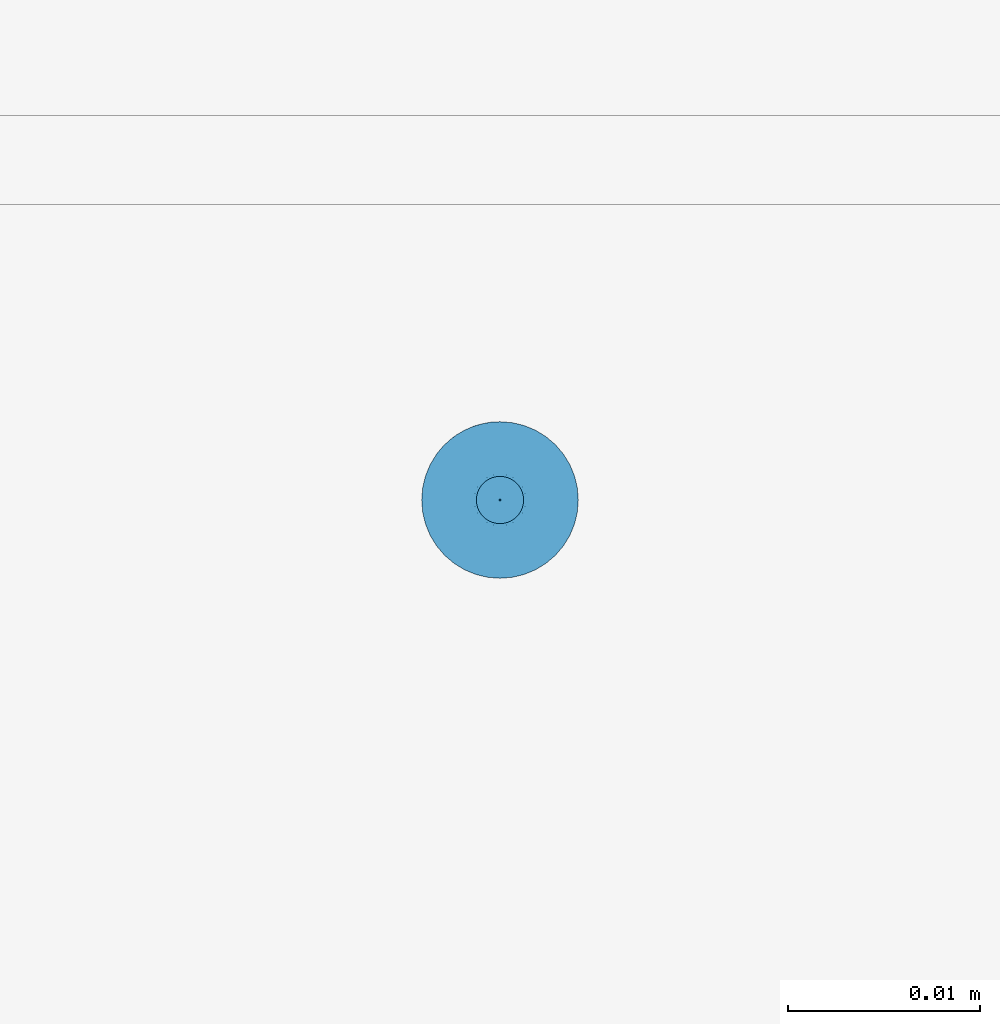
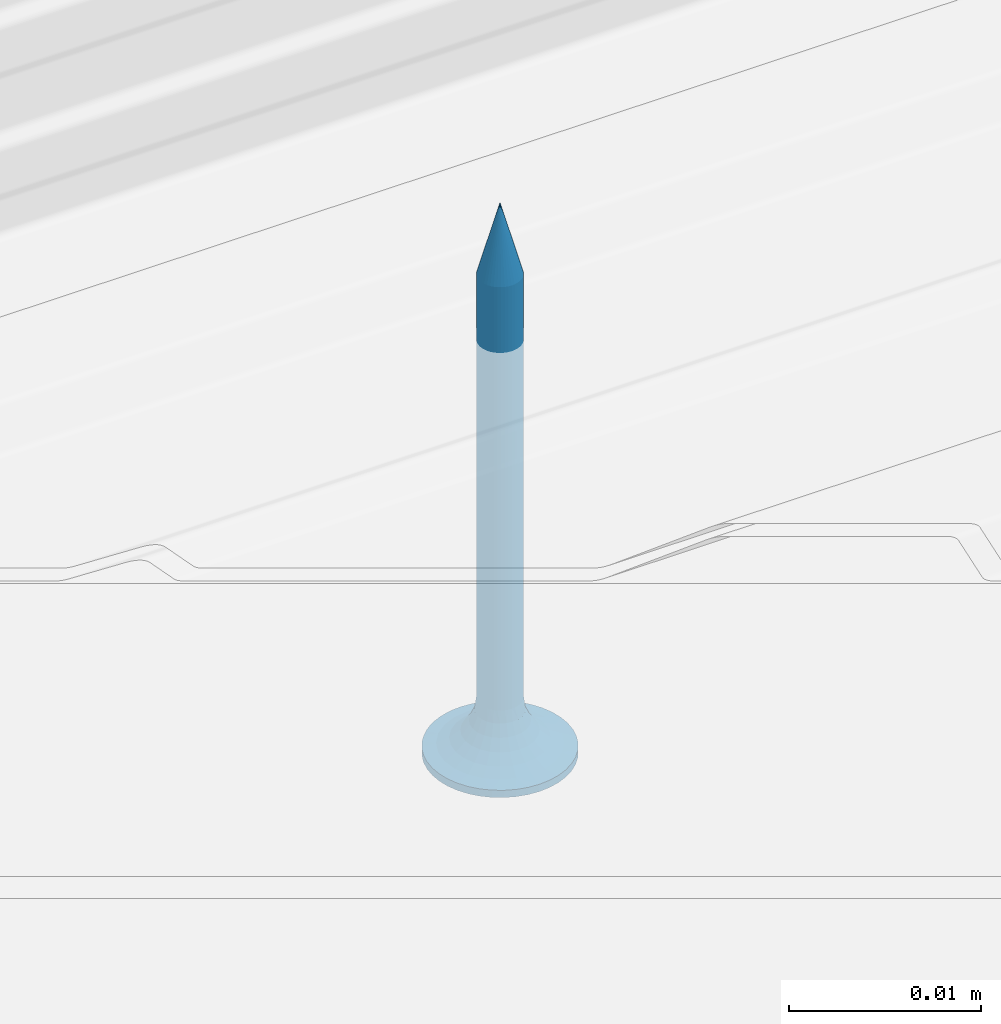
# One storey, part 65 of 73: 1 slab.
"""IFC2X3 building model written with IfcOpenShell, lengths in millimetres."""

from ifc_helpers import new_model, entity, si_unit, converted_unit, direction, frame, origin, origin_with_axes, place, context, project, spatial, faceted_brep, element, save


model = new_model("IFC2X3")

# Units and contexts
model_context = context("Model", 3, precision=1e-05, world=origin(), true_north=direction((0.0, 1.0, 0.0)))
ifc_project = project(units=[si_unit("LENGTHUNIT", "METRE", prefix="MILLI"), si_unit("AREAUNIT", "SQUARE_METRE"), si_unit("VOLUMEUNIT", "CUBIC_METRE"), converted_unit("PLANEANGLEUNIT", "DEGREE", entity("IfcPlaneAngleMeasure", 0.01745), si_unit("PLANEANGLEUNIT", "RADIAN"), dimensions=[0, 0, 0, 0, 0, 0, 0]), si_unit("SOLIDANGLEUNIT", "STERADIAN"), si_unit("MASSUNIT", "GRAM"), si_unit("TIMEUNIT", "SECOND"), si_unit("THERMODYNAMICTEMPERATUREUNIT", "DEGREE_CELSIUS"), si_unit("LUMINOUSINTENSITYUNIT", "LUMEN")], contexts=[model_context])

# Site, building, storey
site_placement = place(None, origin_with_axes())
site = spatial("IfcSite", under=ifc_project, at=site_placement, Name="Default Site", CompositionType="ELEMENT")
building_placement = place(site_placement, origin_with_axes())
building = spatial("IfcBuilding", under=site, at=building_placement, Name="Default Building", CompositionType="ELEMENT")
storey_placement = place(building_placement, origin_with_axes())
storey = spatial("IfcBuildingStorey", under=building, at=storey_placement, Name="Default Building Storey", CompositionType="ELEMENT", Elevation=0.0)

# Slab
slab_placement = place(storey_placement, frame((2340.616074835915, 2684.732776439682, 4357.806162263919), z_axis=(0.0, -1.0, 2.220446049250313e-16), x_axis=(1.0, 1.802054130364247e-31, 8.115730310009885e-16)))
element("IfcSlab", 1, at=slab_placement, inside=storey, Name="Wkręt RIGIPS TN 35", context=model_context, shape_type="Brep", body=[
    faceted_brep([(-138.4548091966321, -3360.55807436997, 556.5233405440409), (-138.3293964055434, -3360.55807436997, 556.6701800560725), (-138.3293964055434, -3387.475459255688, 556.6701800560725), (-138.4548091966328, -3387.475459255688, 556.5233405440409), (-137.2667048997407, -3387.475459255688, 554.5845305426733), (-137.2667048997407, -3360.55807436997, 554.5845305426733), (-137.4592163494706, -3360.55807436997, 554.5693795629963), (-137.4592163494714, -3387.475459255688, 554.5693795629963), (-136.5890362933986, -3387.475459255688, 554.9298199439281), (-136.4636235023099, -3387.475459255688, 555.0766594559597), (-136.4636235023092, -3360.55807436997, 555.0766594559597), (-136.5890362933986, -3360.55807436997, 554.9298199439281), (-136.4636235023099, -3387.475459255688, 556.5233405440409), (-136.5890362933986, -3387.475459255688, 556.6701800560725), (-136.5890362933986, -3360.55807436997, 556.6701800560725), (-136.4636235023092, -3360.55807436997, 556.5233405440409), (-136.9005263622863, -3387.475459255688, 554.7035091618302), (-136.9005263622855, -3360.55807436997, 554.7035091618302), (-137.0789337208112, -3360.55807436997, 554.6296104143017), (-137.078933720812, -3387.475459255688, 554.6296104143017), (-136.7358758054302, -3360.55807436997, 554.8044071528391), (-136.7358758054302, -3387.475459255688, 554.8044071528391), (-137.6517277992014, -3360.55807436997, 554.5845305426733), (-137.6517277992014, -3387.475459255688, 554.5845305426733), (-136.7358758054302, -3387.475459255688, 556.7955928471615), (-136.7358758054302, -3360.55807436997, 556.7955928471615), (-137.83949897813, -3360.55807436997, 554.6296104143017), (-137.8394989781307, -3387.475459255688, 554.6296104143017), (-138.6746858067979, -3360.55807436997, 555.6074885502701), (-138.6898367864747, -3360.55807436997, 555.8000000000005), (-138.6898367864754, -3387.475459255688, 555.8000000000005), (-138.6746858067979, -3387.475459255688, 555.6074885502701), (-138.3293964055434, -3360.55807436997, 554.9298199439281), (-138.4548091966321, -3360.55807436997, 555.0766594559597), (-138.4548091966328, -3387.475459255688, 555.0766594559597), (-138.3293964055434, -3387.475459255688, 554.9298199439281), (-138.0179063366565, -3387.475459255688, 554.7035091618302), (-138.0179063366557, -3360.55807436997, 554.7035091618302), (-138.1825568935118, -3360.55807436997, 554.8044071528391), (-138.1825568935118, -3387.475459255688, 554.8044071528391), (-136.2888267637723, -3387.475459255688, 555.4197173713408), (-136.2437468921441, -3387.475459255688, 555.6074885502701), (-136.2437468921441, -3360.55807436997, 555.6074885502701), (-136.2888267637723, -3360.55807436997, 555.4197173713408), (-138.6296059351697, -3360.55807436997, 555.4197173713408), (-138.6296059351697, -3387.475459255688, 555.4197173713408), (-136.9005263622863, -3387.475459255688, 556.8964908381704), (-136.9005263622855, -3360.55807436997, 556.8964908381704), (-137.4592163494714, -3387.475459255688, 557.0306204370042), (-137.4592163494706, -3360.55807436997, 557.0306204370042), (-137.2667048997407, -3360.55807436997, 557.0154694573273), (-137.2667048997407, -3387.475459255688, 557.0154694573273), (-138.1825568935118, -3387.475459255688, 556.7955928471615), (-138.1825568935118, -3360.55807436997, 556.7955928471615), (-138.0179063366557, -3360.55807436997, 556.8964908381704), (-138.0179063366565, -3387.475459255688, 556.8964908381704), (-136.3627255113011, -3387.475459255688, 556.3586899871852), (-136.3627255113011, -3360.55807436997, 556.3586899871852), (-136.3627255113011, -3387.475459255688, 555.241310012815), (-136.3627255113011, -3360.55807436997, 555.241310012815), (-138.5557071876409, -3360.55807436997, 555.241310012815), (-138.5557071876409, -3387.475459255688, 555.241310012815), (-136.2285959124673, -3387.475459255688, 555.8000000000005), (-136.2285959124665, -3360.55807436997, 555.8000000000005), (-137.8394989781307, -3387.475459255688, 556.9703895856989), (-137.83949897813, -3360.55807436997, 556.9703895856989), (-137.6517277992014, -3360.55807436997, 557.0154694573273), (-137.6517277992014, -3387.475459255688, 557.0154694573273), (-137.078933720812, -3387.475459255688, 556.9703895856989), (-137.0789337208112, -3360.55807436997, 556.9703895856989), (-136.2437468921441, -3387.475459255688, 555.9925114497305), (-136.2437468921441, -3360.55807436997, 555.9925114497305), (-138.6746858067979, -3360.55807436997, 555.9925114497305), (-138.6746858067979, -3387.475459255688, 555.9925114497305), (-138.6296059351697, -3360.55807436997, 556.1802826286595), (-138.6296059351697, -3387.475459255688, 556.1802826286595), (-136.2888267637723, -3387.475459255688, 556.1802826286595), (-136.2888267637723, -3360.55807436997, 556.1802826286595), (-138.5557071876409, -3360.55807436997, 556.3586899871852), (-138.5557071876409, -3387.475459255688, 556.3586899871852), (-141.5377463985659, -3390.556721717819, 555.8000000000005), (-141.5377463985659, -3391.020944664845, 555.8000000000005), (-141.4875329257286, -3391.020944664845, 555.1619773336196), (-141.4875329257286, -3390.556721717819, 555.1619773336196), (-141.338128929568, -3391.020944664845, 554.539664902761), (-141.338128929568, -3390.556721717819, 554.539664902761), (-141.0932132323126, -3391.020944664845, 553.948386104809), (-141.0932132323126, -3390.556721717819, 553.948386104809), (-140.7588164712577, -3391.020944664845, 553.4027001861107), (-140.7588164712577, -3390.556721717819, 553.4027001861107), (-140.3431726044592, -3391.020944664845, 552.9160437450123), (-140.4541727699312, -3390.556721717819, 553.0314907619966), (-140.1080097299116, -3390.556721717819, 552.6986614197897), (-139.8565161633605, -3391.020944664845, 552.5003998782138), (-139.7251262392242, -3390.556721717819, 552.4088262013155), (-139.3108302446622, -3391.020944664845, 552.1660031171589), (-139.3108302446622, -3390.556721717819, 552.1660031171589), (-138.8708651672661, -3390.556721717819, 551.9735584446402), (-138.7195514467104, -3391.020944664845, 551.9210874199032), (-138.4113302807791, -3390.556721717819, 551.8341600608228), (-137.9385961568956, -3390.556721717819, 551.7497404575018), (-138.0972390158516, -3391.020944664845, 551.7716834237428), (-137.4592163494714, -3391.020944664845, 551.7214699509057), (-137.4592163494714, -3390.556721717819, 551.7214699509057), (-136.8211936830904, -3391.020944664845, 551.7716834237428), (-136.8211936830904, -3390.556721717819, 551.7716834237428), (-136.1988812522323, -3391.020944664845, 551.9210874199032), (-136.1988812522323, -3390.556721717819, 551.9210874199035), (-135.6076024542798, -3391.020944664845, 552.1660031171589), (-135.6076024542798, -3390.556721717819, 552.1660031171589), (-135.0619165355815, -3391.020944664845, 552.5003998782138), (-135.0619165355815, -3390.556721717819, 552.5003998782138), (-134.5752600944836, -3391.020944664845, 552.9160437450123), (-134.5752600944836, -3390.556721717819, 552.9160437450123), (-134.1596162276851, -3391.020944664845, 553.4027001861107), (-134.1596162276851, -3390.556721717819, 553.4027001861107), (-133.8252194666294, -3391.020944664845, 553.948386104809), (-133.8252194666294, -3390.556721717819, 553.948386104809), (-133.580303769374, -3391.020944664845, 554.539664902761), (-133.580303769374, -3390.556721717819, 554.539664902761), (-133.4308997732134, -3391.020944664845, 556.438022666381), (-133.4308997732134, -3390.556721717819, 556.438022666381), (-133.3806863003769, -3390.556721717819, 555.8000000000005), (-133.3806863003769, -3391.020944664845, 555.8000000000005), (-133.4308997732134, -3390.556721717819, 555.1619773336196), (-133.4308997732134, -3391.020944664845, 555.1619773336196), (-133.580303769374, -3391.020944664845, 557.0603350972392), (-133.580303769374, -3390.556721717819, 557.0603350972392), (-133.8252194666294, -3391.020944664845, 557.6516138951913), (-133.8252194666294, -3390.556721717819, 557.6516138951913), (-134.1596162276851, -3391.020944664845, 558.1972998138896), (-134.1596162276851, -3390.556721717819, 558.1972998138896), (-134.5752600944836, -3391.020944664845, 558.683956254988), (-134.5752600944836, -3390.556721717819, 558.683956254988), (-135.0619165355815, -3391.020944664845, 559.0996001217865), (-135.0619165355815, -3390.556721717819, 559.0996001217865), (-135.6076024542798, -3391.020944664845, 559.4339968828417), (-135.6076024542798, -3390.556721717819, 559.4339968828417), (-136.1988812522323, -3391.020944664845, 559.6789125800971), (-136.1988812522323, -3390.556721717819, 559.6789125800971), (-136.8211936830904, -3391.020944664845, 559.8283165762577), (-136.8211936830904, -3390.556721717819, 559.8283165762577), (-137.4592163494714, -3391.020944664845, 559.8785300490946), (-137.4592163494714, -3390.556721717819, 559.8785300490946), (-138.0972390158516, -3391.020944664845, 559.8283165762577), (-138.0972390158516, -3390.556721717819, 559.8283165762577), (-138.7195514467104, -3391.020944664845, 559.6789125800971), (-138.7195514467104, -3390.556721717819, 559.6789125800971), (-139.3108302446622, -3391.020944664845, 559.4339968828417), (-139.3108302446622, -3390.556721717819, 559.4339968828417), (-139.8565161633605, -3391.020944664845, 559.0996001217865), (-139.8565161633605, -3390.556721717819, 559.0996001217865), (-140.3431726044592, -3391.020944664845, 558.683956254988), (-140.3431726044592, -3390.556721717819, 558.683956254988), (-140.7588164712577, -3391.020944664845, 558.1972998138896), (-140.7588164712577, -3390.556721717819, 558.1972998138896), (-141.0932132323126, -3391.020944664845, 557.6516138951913), (-141.0932132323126, -3390.556721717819, 557.6516138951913), (-141.338128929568, -3391.020944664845, 557.0603350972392), (-141.338128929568, -3390.556721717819, 557.0603350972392), (-141.4875329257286, -3391.020944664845, 556.438022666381), (-141.4875329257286, -3390.556721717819, 556.438022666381), (-137.8060615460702, -3388.229732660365, 554.5055560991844), (-137.4592163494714, -3388.229732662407, 554.4598930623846), (-138.1292698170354, -3388.229732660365, 554.6394333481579), (-138.4068150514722, -3388.229732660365, 554.8524012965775), (-138.6197830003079, -3388.229732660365, 555.1299465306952), (-138.7536602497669, -3388.229732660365, 555.4531548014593), (-138.7993232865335, -3388.229732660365, 555.7999999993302), (-138.7536602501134, -3388.229732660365, 556.1468451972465), (-138.6197830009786, -3388.229732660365, 556.4700534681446), (-138.4068150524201, -3388.229732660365, 556.7475987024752), (-138.1292698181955, -3388.229732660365, 556.9605666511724), (-137.8060615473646, -3388.229732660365, 557.0944439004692), (-137.4592163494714, -3388.229732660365, 557.1401069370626), (-137.1123711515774, -3388.229732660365, 557.0944439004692), (-136.7891628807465, -3388.229732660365, 556.9605666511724), (-136.5116176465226, -3388.229732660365, 556.7475987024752), (-136.2986496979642, -3388.229732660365, 556.4700534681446), (-136.1647724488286, -3388.229732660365, 556.1468451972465), (-136.1191094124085, -3388.229732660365, 555.7999999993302), (-136.1647724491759, -3388.229732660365, 555.4531548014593), (-136.2986496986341, -3388.229732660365, 555.1299465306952), (-136.5116176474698, -3388.229732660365, 554.8524012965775), (-136.7891628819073, -3388.229732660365, 554.6394333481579), (-137.1123711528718, -3388.229732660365, 554.5055560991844), (-137.4592163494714, -3388.936142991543, 554.1737111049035), (-137.8801308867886, -3388.936142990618, 554.2291255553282), (-138.2723607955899, -3388.936142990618, 554.39159250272), (-138.6091762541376, -3388.936142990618, 554.6500400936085), (-138.8676238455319, -3388.936142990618, 554.9868555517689), (-139.0300907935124, -3388.936142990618, 555.3790854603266), (-139.0855052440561, -3388.936142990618, 555.7999999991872), (-139.0300907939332, -3388.936142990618, 556.2209145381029), (-138.8676238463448, -3388.936142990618, 556.6131444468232), (-138.6091762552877, -3388.936142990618, 556.949959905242), (-138.2723607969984, -3388.936142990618, 557.2084074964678), (-137.8801308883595, -3388.936142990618, 557.3708744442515), (-137.4592163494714, -3388.936142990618, 557.4262888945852), (-137.0383018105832, -3388.936142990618, 557.3708744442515), (-136.6460719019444, -3388.936142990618, 557.2084074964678), (-136.3092564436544, -3388.936142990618, 556.949959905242), (-136.0508088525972, -3388.936142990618, 556.6131444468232), (-135.8883419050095, -3388.936142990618, 556.2209145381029), (-135.8329274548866, -3388.936142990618, 555.7999999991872), (-135.8883419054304, -3388.936142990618, 555.3790854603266), (-136.0508088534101, -3388.936142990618, 554.9868555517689), (-136.3092564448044, -3388.936142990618, 554.6500400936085), (-136.6460719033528, -3388.936142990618, 554.39159250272), (-137.0383018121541, -3388.936142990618, 554.2291255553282), (-137.4592163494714, -3389.553938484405, 553.727343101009), (-137.9956594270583, -3389.553938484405, 553.7979671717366), (-138.4955447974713, -3389.553938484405, 554.0050264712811), (-138.9248060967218, -3389.553938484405, 554.3344102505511), (-139.2541898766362, -3389.553938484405, 554.7636715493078), (-139.46124917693, -3389.553938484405, 555.2635569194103), (-139.5318732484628, -3389.553938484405, 555.7999999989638), (-139.4612491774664, -3389.553938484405, 556.3364430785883), (-139.2541898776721, -3389.553938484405, 556.8363284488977), (-138.9248060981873, -3389.553938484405, 557.2655897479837), (-138.495544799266, -3389.553938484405, 557.5949735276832), (-137.9956594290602, -3389.553938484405, 557.8020328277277), (-137.4592163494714, -3389.553938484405, 557.8726568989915), (-136.9227732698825, -3389.553938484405, 557.8020328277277), (-136.422887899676, -3389.553938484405, 557.5949735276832), (-135.9936266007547, -3389.553938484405, 557.2655897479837), (-135.6642428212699, -3389.553938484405, 556.8363284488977), (-135.4571835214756, -3389.553938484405, 556.3364430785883), (-135.3865594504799, -3389.553938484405, 555.7999999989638), (-135.457183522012, -3389.553938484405, 555.2635569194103), (-135.6642428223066, -3389.553938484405, 554.7636715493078), (-135.9936266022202, -3389.553938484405, 554.3344102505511), (-136.4228879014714, -3389.553938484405, 554.0050264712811), (-136.9227732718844, -3389.553938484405, 553.7979671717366), (-137.4592163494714, -3390.04747944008, 553.1465393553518), (-138.1459824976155, -3390.047479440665, 553.2369538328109), (-138.7859466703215, -3390.047479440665, 553.5020356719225), (-139.3354963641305, -3390.047479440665, 553.9237199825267), (-139.757180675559, -3390.047479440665, 554.4732696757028), (-140.0222625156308, -3390.047479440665, 555.1132338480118), (-140.1126769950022, -3390.047479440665, 555.7999999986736), (-140.0222625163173, -3390.047479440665, 556.4867661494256), (-139.7571806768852, -3390.047479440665, 557.1267303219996), (-139.3354963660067, -3390.047479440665, 557.6762800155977), (-138.7859466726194, -3390.047479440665, 558.0979643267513), (-138.1459825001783, -3390.047479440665, 558.3630461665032), (-137.4592163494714, -3390.047479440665, 558.4534606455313), (-136.7724501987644, -3390.047479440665, 558.3630461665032), (-136.1324860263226, -3390.047479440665, 558.0979643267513), (-135.5829363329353, -3390.047479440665, 557.6762800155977), (-135.1612520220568, -3390.047479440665, 557.1267303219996), (-134.8961701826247, -3390.047479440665, 556.4867661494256), (-134.8057557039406, -3390.047479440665, 555.7999999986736), (-134.8961701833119, -3390.047479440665, 555.1132338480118), (-135.1612520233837, -3390.047479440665, 554.4732696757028), (-135.5829363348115, -3390.047479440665, 553.9237199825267), (-136.1324860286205, -3390.047479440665, 553.5020356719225), (-136.7724502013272, -3390.047479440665, 553.2369538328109), (-137.4592163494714, -3390.388294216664, 552.4648055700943), (-138.3224281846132, -3390.388294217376, 552.5784495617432), (-139.1268135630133, -3390.388294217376, 552.9116368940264), (-139.8175549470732, -3390.388294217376, 553.4416613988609), (-140.3475794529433, -3390.388294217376, 554.1324027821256), (-140.6807667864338, -3390.388294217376, 554.9367881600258), (-140.7944107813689, -3390.388294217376, 555.7999999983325), (-140.6807667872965, -3390.388294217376, 556.6632118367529), (-140.3475794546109, -3390.388294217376, 557.4675972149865), (-139.8175549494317, -3390.388294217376, 558.1583385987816), (-139.1268135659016, -3390.388294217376, 558.6883631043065), (-138.3224281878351, -3390.388294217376, 559.0215504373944), (-137.4592163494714, -3390.388294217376, 559.1351944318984), (-136.5960045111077, -3390.388294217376, 559.0215504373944), (-135.7916191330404, -3390.388294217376, 558.6883631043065), (-135.1008777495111, -3390.388294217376, 558.1583385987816), (-134.5708532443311, -3390.388294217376, 557.4675972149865), (-134.2376659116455, -3390.388294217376, 556.6632118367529), (-134.1240219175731, -3390.388294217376, 555.7999999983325), (-134.2376659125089, -3390.388294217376, 554.9367881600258), (-134.5708532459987, -3390.388294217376, 554.1324027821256), (-135.1008777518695, -3390.388294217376, 553.4416613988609), (-135.7916191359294, -3390.388294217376, 552.9116368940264), (-136.5960045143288, -3390.388294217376, 552.5784495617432), (-137.4592163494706, -3356.021033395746, 555.8000000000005), (-139.9592163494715, -3391.020944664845, 556.3000000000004), (-137.9592163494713, -3391.020944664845, 556.3000000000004), (-139.9592163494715, -3391.020944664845, 555.3000000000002), (-137.9592163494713, -3391.020944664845, 555.3000000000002), (-137.9592163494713, -3391.020944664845, 553.3000000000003), (-136.9592163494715, -3391.020944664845, 553.3000000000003), (-136.9592163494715, -3391.020944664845, 555.3000000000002), (-134.9592163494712, -3391.020944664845, 555.3000000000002), (-134.9592163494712, -3391.020944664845, 556.3000000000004), (-136.9592163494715, -3391.020944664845, 556.3000000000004), (-136.9592163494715, -3391.020944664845, 558.3000000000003), (-137.9592163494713, -3391.020944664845, 558.3000000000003), (-136.9592163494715, -3390.128974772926, 556.3000000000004), (-134.9592163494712, -3390.128974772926, 556.3000000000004), (-134.9592163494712, -3390.128974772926, 555.3000000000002), (-136.9592163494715, -3390.128974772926, 555.3000000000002), (-136.9592163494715, -3390.128974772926, 553.3000000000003), (-137.9592163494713, -3390.128974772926, 553.3000000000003), (-137.9592163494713, -3390.128974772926, 555.3000000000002), (-139.9592163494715, -3390.128974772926, 555.3000000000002), (-139.9592163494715, -3390.128974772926, 556.3000000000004), (-137.9592163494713, -3390.128974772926, 556.3000000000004), (-137.9592163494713, -3390.128974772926, 558.3000000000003), (-136.9592163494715, -3390.128974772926, 558.3000000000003)], [[[0, 1, 2, 3]], [[4, 5, 6, 7]], [[8, 9, 10, 11]], [[12, 13, 14, 15]], [[16, 17, 18, 19]], [[8, 11, 20, 21]], [[7, 6, 22, 23]], [[24, 25, 14, 13]], [[23, 22, 26, 27]], [[28, 29, 30, 31]], [[32, 33, 34, 35]], [[36, 37, 38, 39]], [[39, 38, 32, 35]], [[40, 41, 42, 43]], [[44, 28, 31, 45]], [[46, 47, 25, 24]], [[21, 20, 17, 16]], [[48, 49, 50, 51]], [[52, 53, 54, 55]], [[56, 12, 15, 57]], [[9, 58, 59, 10]], [[33, 60, 61, 34]], [[41, 62, 63, 42]], [[64, 65, 66, 67]], [[68, 69, 47, 46]], [[58, 40, 43, 59]], [[2, 1, 53, 52]], [[19, 18, 5, 4]], [[27, 26, 37, 36]], [[62, 70, 71, 63]], [[55, 54, 65, 64]], [[67, 66, 49, 48]], [[29, 72, 73, 30]], [[72, 74, 75, 73]], [[70, 76, 77, 71]], [[60, 44, 45, 61]], [[51, 50, 69, 68]], [[74, 78, 79, 75]], [[78, 0, 3, 79]], [[76, 56, 57, 77]], [[80, 81, 82, 83]], [[84, 85, 83, 82]], [[86, 87, 85, 84]], [[87, 86, 88, 89]], [[88, 90, 89]], [[90, 91, 89]], [[92, 91, 93]], [[91, 90, 93]], [[93, 94, 92]], [[93, 95, 94]], [[95, 96, 94]], [[97, 96, 98]], [[96, 95, 98]], [[98, 99, 97]], [[100, 99, 101]], [[99, 98, 101]], [[101, 102, 100]], [[102, 103, 100]], [[103, 102, 104, 105]], [[106, 107, 105, 104]], [[108, 109, 107, 106]], [[109, 108, 110, 111]], [[112, 113, 111, 110]], [[113, 112, 114, 115]], [[116, 117, 115, 114]], [[118, 119, 117, 116]], [[120, 121, 122, 123]], [[123, 122, 124, 125]], [[119, 118, 125, 124]], [[126, 127, 121, 120]], [[128, 129, 127, 126]], [[129, 128, 130, 131]], [[132, 133, 131, 130]], [[133, 132, 134, 135]], [[136, 137, 135, 134]], [[138, 139, 137, 136]], [[139, 138, 140, 141]], [[142, 143, 141, 140]], [[143, 142, 144, 145]], [[146, 147, 145, 144]], [[148, 149, 147, 146]], [[149, 148, 150, 151]], [[152, 153, 151, 150]], [[153, 152, 154, 155]], [[156, 157, 155, 154]], [[158, 159, 157, 156]], [[159, 158, 160, 161]], [[81, 80, 161, 160]], [[162, 7, 23]], [[162, 163, 7]], [[23, 27, 162]], [[162, 27, 164]], [[36, 164, 27]], [[164, 36, 39]], [[39, 165, 164]], [[39, 35, 165]], [[166, 35, 34]], [[166, 165, 35]], [[34, 61, 166]], [[166, 61, 167]], [[45, 167, 61]], [[167, 45, 31]], [[31, 168, 167]], [[31, 30, 168]], [[169, 30, 73]], [[169, 168, 30]], [[73, 75, 169]], [[169, 75, 170]], [[79, 170, 75]], [[170, 79, 3]], [[3, 171, 170]], [[3, 2, 171]], [[172, 2, 52]], [[172, 171, 2]], [[52, 55, 172]], [[172, 55, 173]], [[64, 173, 55]], [[173, 64, 67]], [[67, 174, 173]], [[67, 48, 174]], [[175, 48, 51]], [[175, 174, 48]], [[51, 68, 175]], [[175, 68, 176]], [[46, 176, 68]], [[176, 46, 24]], [[24, 177, 176]], [[24, 13, 177]], [[178, 13, 12]], [[178, 177, 13]], [[12, 56, 178]], [[178, 56, 179]], [[76, 179, 56]], [[179, 76, 70]], [[70, 180, 179]], [[70, 62, 180]], [[181, 62, 41]], [[181, 180, 62]], [[41, 40, 181]], [[181, 40, 182]], [[58, 182, 40]], [[182, 58, 9]], [[9, 183, 182]], [[9, 8, 183]], [[184, 8, 21]], [[184, 183, 8]], [[21, 16, 184]], [[184, 16, 185]], [[19, 185, 16]], [[185, 19, 4]], [[4, 163, 185]], [[4, 7, 163]], [[186, 163, 187]], [[162, 187, 163]], [[164, 188, 187, 162]], [[165, 189, 188, 164]], [[166, 190, 189, 165]], [[167, 191, 190, 166]], [[168, 192, 191, 167]], [[169, 193, 192, 168]], [[170, 194, 193, 169]], [[171, 195, 194, 170]], [[172, 196, 195, 171]], [[173, 197, 196, 172]], [[174, 198, 197, 173]], [[175, 199, 198, 174]], [[176, 200, 199, 175]], [[177, 201, 200, 176]], [[178, 202, 201, 177]], [[179, 203, 202, 178]], [[180, 204, 203, 179]], [[181, 205, 204, 180]], [[182, 206, 205, 181]], [[183, 207, 206, 182]], [[184, 208, 207, 183]], [[185, 209, 208, 184]], [[185, 163, 209]], [[186, 209, 163]], [[210, 186, 211]], [[187, 211, 186]], [[188, 212, 211, 187]], [[189, 213, 212, 188]], [[190, 214, 213, 189]], [[191, 215, 214, 190]], [[192, 216, 215, 191]], [[193, 217, 216, 192]], [[194, 218, 217, 193]], [[195, 219, 218, 194]], [[196, 220, 219, 195]], [[197, 221, 220, 196]], [[198, 222, 221, 197]], [[199, 223, 222, 198]], [[200, 224, 223, 199]], [[201, 225, 224, 200]], [[202, 226, 225, 201]], [[203, 227, 226, 202]], [[204, 228, 227, 203]], [[205, 229, 228, 204]], [[206, 230, 229, 205]], [[207, 231, 230, 206]], [[208, 232, 231, 207]], [[209, 233, 232, 208]], [[209, 186, 233]], [[210, 233, 186]], [[234, 210, 235]], [[211, 235, 210]], [[212, 236, 235, 211]], [[213, 237, 236, 212]], [[214, 238, 237, 213]], [[215, 239, 238, 214]], [[216, 240, 239, 215]], [[217, 241, 240, 216]], [[218, 242, 241, 217]], [[219, 243, 242, 218]], [[220, 244, 243, 219]], [[221, 245, 244, 220]], [[222, 246, 245, 221]], [[223, 247, 246, 222]], [[224, 248, 247, 223]], [[225, 249, 248, 224]], [[226, 250, 249, 225]], [[227, 251, 250, 226]], [[228, 252, 251, 227]], [[229, 253, 252, 228]], [[230, 254, 253, 229]], [[231, 255, 254, 230]], [[232, 256, 255, 231]], [[233, 257, 256, 232]], [[233, 210, 257]], [[234, 257, 210]], [[258, 99, 100]], [[258, 259, 99]], [[100, 103, 258]], [[258, 234, 259]], [[235, 259, 234]], [[259, 96, 97]], [[259, 260, 96]], [[97, 99, 259]], [[236, 260, 259, 235]], [[261, 91, 92]], [[260, 92, 94]], [[260, 261, 92]], [[94, 96, 260]], [[237, 261, 260, 236]], [[262, 87, 89]], [[89, 261, 262]], [[89, 91, 261]], [[238, 262, 261, 237]], [[85, 87, 263]], [[262, 263, 87]], [[239, 263, 262, 238]], [[263, 80, 83]], [[263, 264, 80]], [[83, 85, 263]], [[240, 264, 263, 239]], [[265, 159, 161]], [[161, 264, 265]], [[161, 80, 264]], [[241, 265, 264, 240]], [[265, 266, 157, 159]], [[242, 266, 265, 241]], [[266, 153, 155]], [[266, 267, 153]], [[155, 157, 266]], [[243, 267, 266, 242]], [[268, 149, 151]], [[151, 267, 268]], [[151, 153, 267]], [[244, 268, 267, 243]], [[268, 269, 147, 149]], [[245, 269, 268, 244]], [[269, 143, 145]], [[269, 270, 143]], [[145, 147, 269]], [[246, 270, 269, 245]], [[271, 139, 141]], [[141, 270, 271]], [[141, 143, 270]], [[247, 271, 270, 246]], [[271, 272, 137, 139]], [[248, 272, 271, 247]], [[272, 133, 135]], [[272, 273, 133]], [[135, 137, 272]], [[249, 273, 272, 248]], [[274, 129, 131]], [[131, 273, 274]], [[131, 133, 273]], [[250, 274, 273, 249]], [[274, 275, 127, 129]], [[251, 275, 274, 250]], [[275, 122, 121]], [[275, 276, 122]], [[121, 127, 275]], [[252, 276, 275, 251]], [[277, 119, 124]], [[124, 276, 277]], [[124, 122, 276]], [[253, 277, 276, 252]], [[117, 119, 278]], [[277, 278, 119]], [[254, 278, 277, 253]], [[278, 113, 115]], [[278, 279, 113]], [[115, 117, 278]], [[255, 279, 278, 254]], [[280, 109, 111]], [[111, 279, 280]], [[111, 113, 279]], [[256, 280, 279, 255]], [[107, 109, 281]], [[280, 281, 109]], [[257, 281, 280, 256]], [[257, 234, 281]], [[258, 281, 234]], [[281, 103, 105]], [[281, 258, 103]], [[105, 107, 281]], [[28, 44, 282]], [[282, 29, 28]], [[44, 60, 282]], [[33, 32, 282]], [[282, 60, 33]], [[38, 37, 282]], [[282, 32, 38]], [[37, 26, 282]], [[22, 6, 282]], [[282, 26, 22]], [[5, 18, 282]], [[282, 6, 5]], [[18, 17, 282]], [[20, 11, 282]], [[282, 17, 20]], [[10, 59, 282]], [[282, 11, 10]], [[59, 43, 282]], [[42, 63, 282]], [[282, 43, 42]], [[71, 77, 282]], [[282, 63, 71]], [[77, 57, 282]], [[15, 14, 282]], [[282, 57, 15]], [[25, 47, 282]], [[282, 14, 25]], [[47, 69, 282]], [[50, 49, 282]], [[282, 69, 50]], [[66, 65, 282]], [[282, 49, 66]], [[65, 54, 282]], [[53, 1, 282]], [[282, 54, 53]], [[0, 78, 282]], [[282, 1, 0]], [[78, 74, 282]], [[72, 29, 282]], [[282, 74, 72]], [[283, 156, 154, 284]], [[283, 285, 286, 287, 288, 289, 290, 291, 292, 293, 294, 284, 154, 152, 150, 148, 146, 144, 142, 140, 138, 136, 134, 132, 130, 128, 126, 120, 123, 125, 118, 116, 114, 112, 110, 108, 106, 104, 102, 101, 98, 95, 93, 90, 88, 86, 84, 82, 81, 160, 158, 156]], [[295, 296, 297, 298, 299, 300, 301, 302, 303, 304, 305, 306]], [[297, 290, 289, 298]], [[296, 291, 290, 297]], [[295, 292, 291, 296]], [[306, 293, 292, 295]], [[305, 294, 293, 306]], [[304, 284, 294, 305]], [[303, 283, 284, 304]], [[302, 285, 283, 303]], [[301, 286, 285, 302]], [[300, 287, 286, 301]], [[299, 288, 287, 300]], [[298, 289, 288, 299]]]),
])

save(model, "model.ifc")
